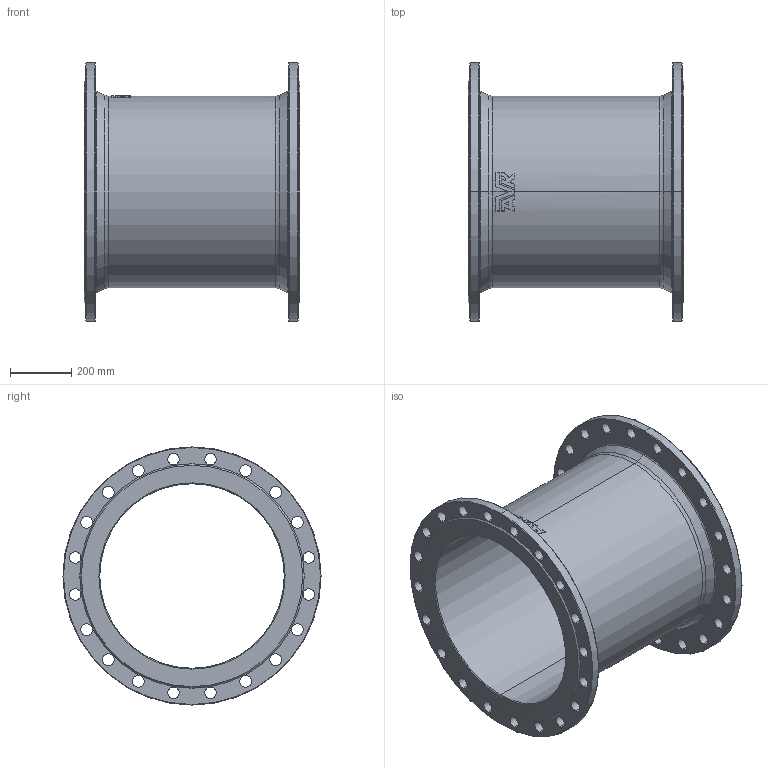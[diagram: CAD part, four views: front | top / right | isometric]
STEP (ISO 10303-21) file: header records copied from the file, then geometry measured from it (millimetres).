
FILE_DESCRIPTION (( 'STEP AP203' ), '1' );
FILE_NAME ('O_712_5010_DN600_1X_REV01.step', '2021-12-03T10:27:01', ( '' ), ( '' ), 'SwSTEP 2.0', 'SolidWorks 2019', '' );
FILE_SCHEMA (( 'CONFIG_CONTROL_DESIGN' ));
Length unit declared in the file: millimetre
Products named in the file (1): O_712_5010_DN600_1X_REV01
Bounding box: 700 x 840 x 840 mm (x, y, z)
Volume: 32450679 mm3; surface area: 3753108.7 mm2
Topology: 1 solids, 1 shells, 164 faces, 439 edges, 284 vertices
Faces by surface type: cylinder 93, plane 26, bspline 17, torus 16, cone 12
Entity records: 6232 total; most frequent: CARTESIAN_POINT 1765, DIRECTION 959, ORIENTED_EDGE 878, EDGE_CURVE 439, AXIS2_PLACEMENT_3D 406, VERTEX_POINT 284, CIRCLE 258, EDGE_LOOP 253
